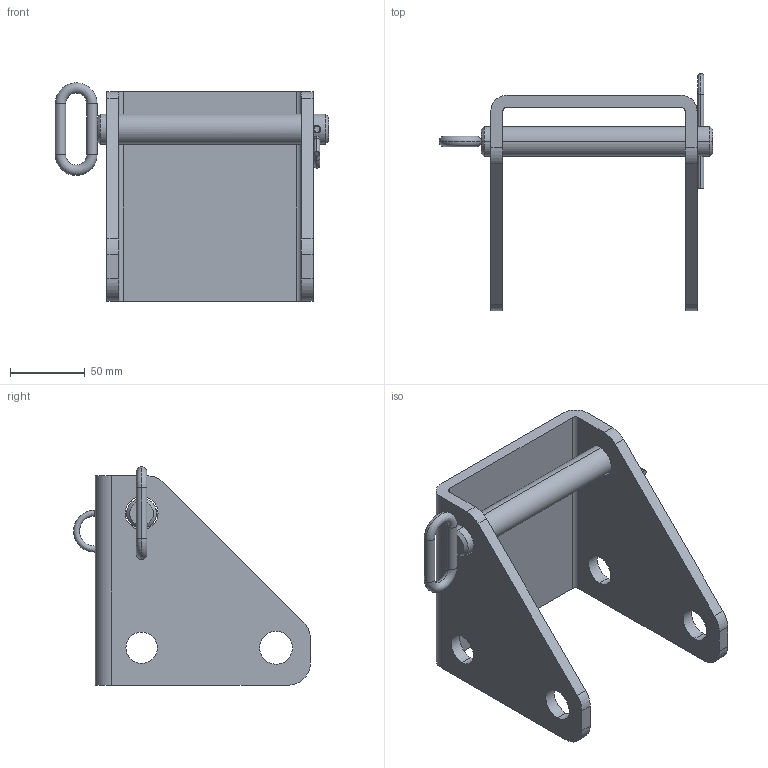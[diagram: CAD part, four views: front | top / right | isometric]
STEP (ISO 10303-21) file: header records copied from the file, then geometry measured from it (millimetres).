
FILE_DESCRIPTION (( 'STEP AP203' ), '1' );
FILE_NAME ('CH.B.STEP', '2011-11-22T07:49:34', ( 'Chapel' ), ( 'Chapel' ), 'SwSTEP 2.0', 'SolidWorks 2007', '' );
FILE_SCHEMA (( 'CONFIG_CONTROL_DESIGN' ));
Length unit declared in the file: millimetre
Products named in the file (1): CH.B
Bounding box: 183 x 158.58 x 146 mm (x, y, z)
Surface area: 113865.6 mm2 (no closed solid volume)
Topology: 0 solids, 4 shells, 72 faces, 170 edges, 104 vertices
Faces by surface type: cylinder 40, plane 16, torus 12, cone 4
Entity records: 2294 total; most frequent: CARTESIAN_POINT 467, DIRECTION 404, ORIENTED_EDGE 340, EDGE_CURVE 170, AXIS2_PLACEMENT_3D 165, VERTEX_POINT 104, CIRCLE 92, EDGE_LOOP 86
